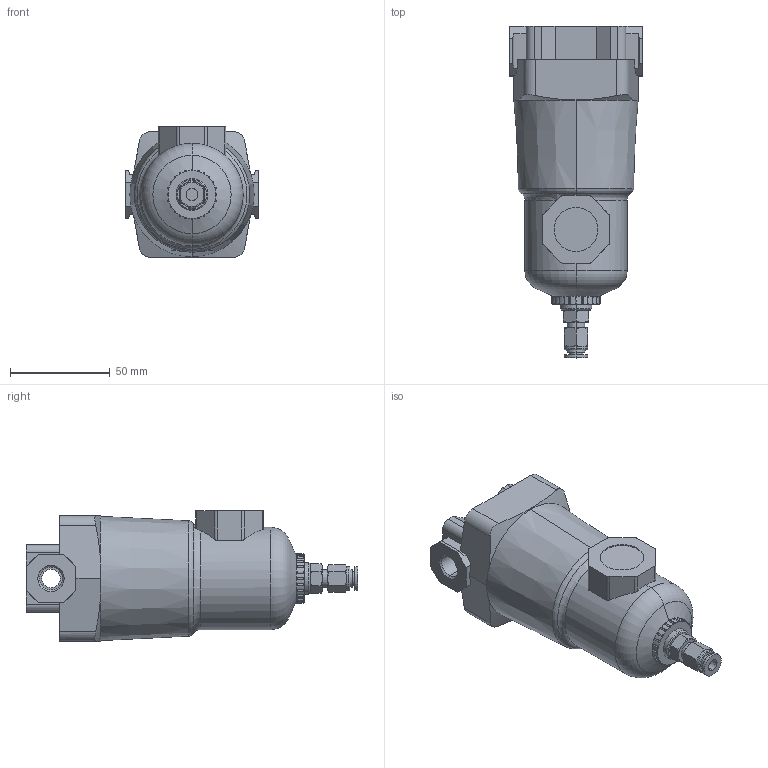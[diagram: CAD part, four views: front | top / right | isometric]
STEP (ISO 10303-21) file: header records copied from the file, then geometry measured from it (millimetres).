
FILE_DESCRIPTION (( 'STEP AP203' ), '1' );
FILE_NAME ('FSO150-02D.STEP', '2021-09-22T11:28:01', ( '' ), ( '' ), 'SwSTEP 2.0', 'SolidWorks 2019', '' );
FILE_SCHEMA (( 'CONFIG_CONTROL_DESIGN' ));
Length unit declared in the file: millimetre
Products named in the file (1): FSO150-02D
Bounding box: 67 x 166.2 x 65.5 mm (x, y, z)
Volume: 338917.8 mm3; surface area: 37376.9 mm2
Topology: 1 solids, 1 shells, 333 faces, 759 edges, 452 vertices
Faces by surface type: cylinder 127, cone 101, plane 97, torus 8
Entity records: 11949 total; most frequent: CARTESIAN_POINT 4473, DIRECTION 1574, ORIENTED_EDGE 1518, EDGE_CURVE 759, AXIS2_PLACEMENT_3D 621, VERTEX_POINT 452, EDGE_LOOP 359, ADVANCED_FACE 333
